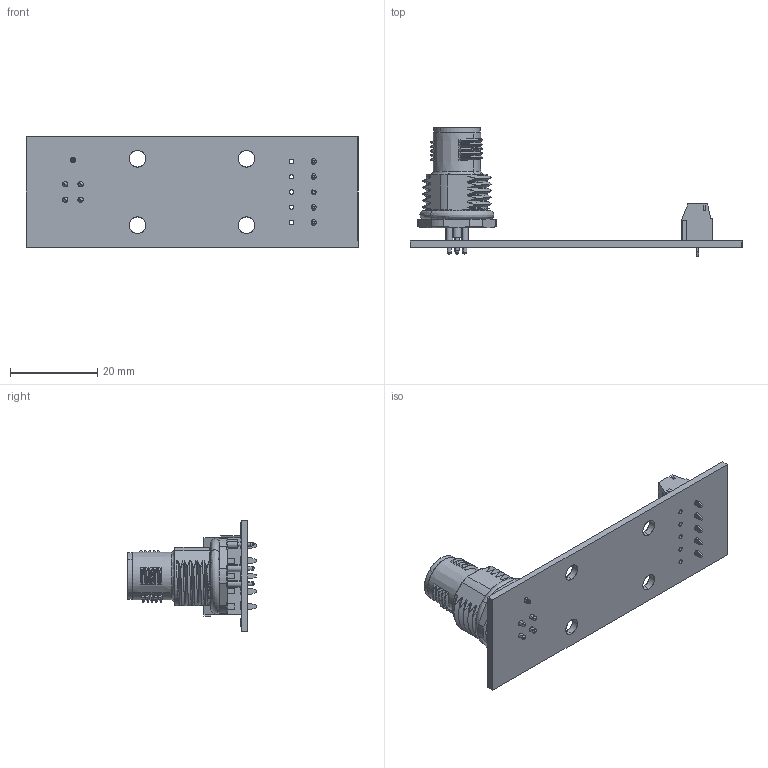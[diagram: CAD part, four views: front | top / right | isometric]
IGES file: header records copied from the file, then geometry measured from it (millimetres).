
Start section: SolidWorks IGES file using analytic representation for surfaces
Global section: file name: W:\end-user\products\brk\brkm12\brkm12a-4ms\3dmodel\rev_a\render\brkm12a-4ms-n_rev_a.igs; native system: SolidWorks 2018; preprocessor: SolidWorks 2018; author: leviroy; date: 230111.131159; units: inch
Bounding box: 76.2 x 29.5 x 25.4 mm (x, y, z)
Surface area: 7698.5 mm2 (no closed solid volume)
Topology: 0 solids, 0 shells, 1822 faces, 15089 edges, 15084 vertices
Faces by surface type: bspline 1568, revolution 254
